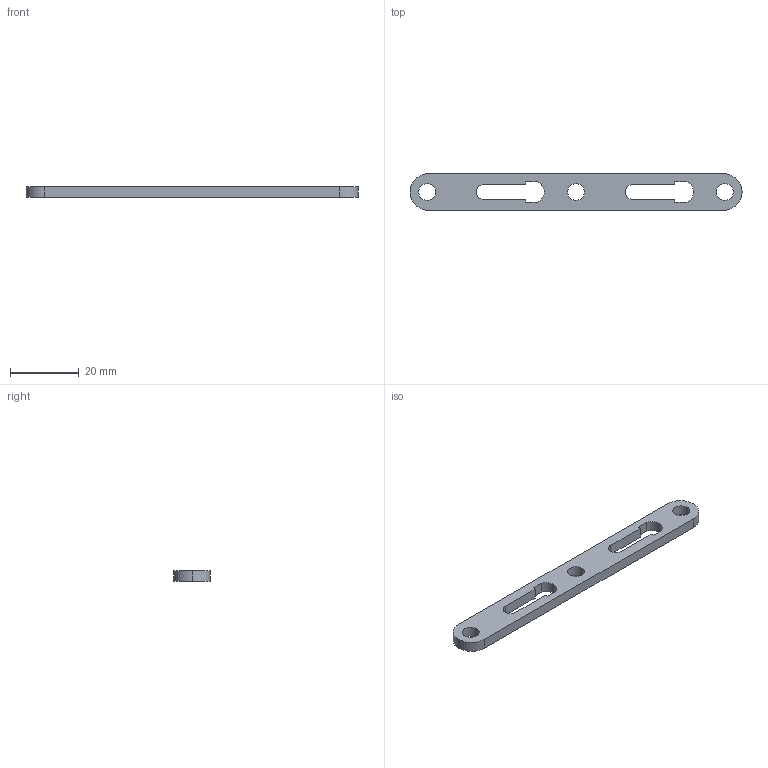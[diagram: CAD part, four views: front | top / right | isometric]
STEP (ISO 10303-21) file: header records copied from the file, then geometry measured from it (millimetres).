
FILE_DESCRIPTION (( 'STEP AP214' ), '1' );
FILE_NAME ('4036B_V01_REF_PRT_NON-LOCK_FLAT_DBL_CLIP.STEP', '2025-06-25T12:40:40', ( '' ), ( '' ), 'SwSTEP 2.0', 'SolidWorks 2025', '' );
FILE_SCHEMA (( 'AUTOMOTIVE_DESIGN' ));
Length unit declared in the file: millimetre
Products named in the file (1): 4036B_V01_REF_PRT_NON-LOCK_FLAT_DBL_CLIP
Bounding box: 96.72 x 10.67 x 3.17 mm (x, y, z)
Volume: 2447.1 mm3; surface area: 2643.9 mm2
Topology: 1 solids, 1 shells, 31 faces, 87 edges, 58 vertices
Faces by surface type: plane 16, cylinder 15
Entity records: 1054 total; most frequent: DIRECTION 181, CARTESIAN_POINT 177, ORIENTED_EDGE 174, EDGE_CURVE 87, AXIS2_PLACEMENT_3D 62, VERTEX_POINT 58, LINE 57, VECTOR 57
